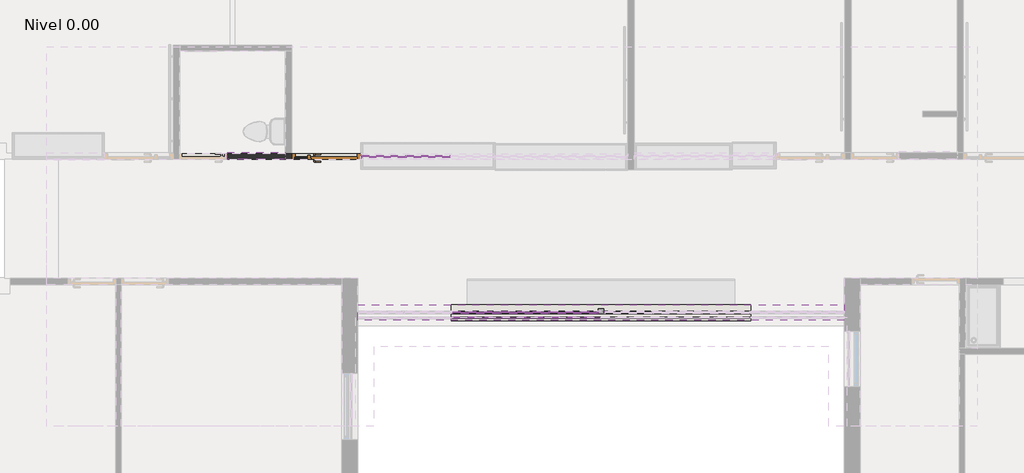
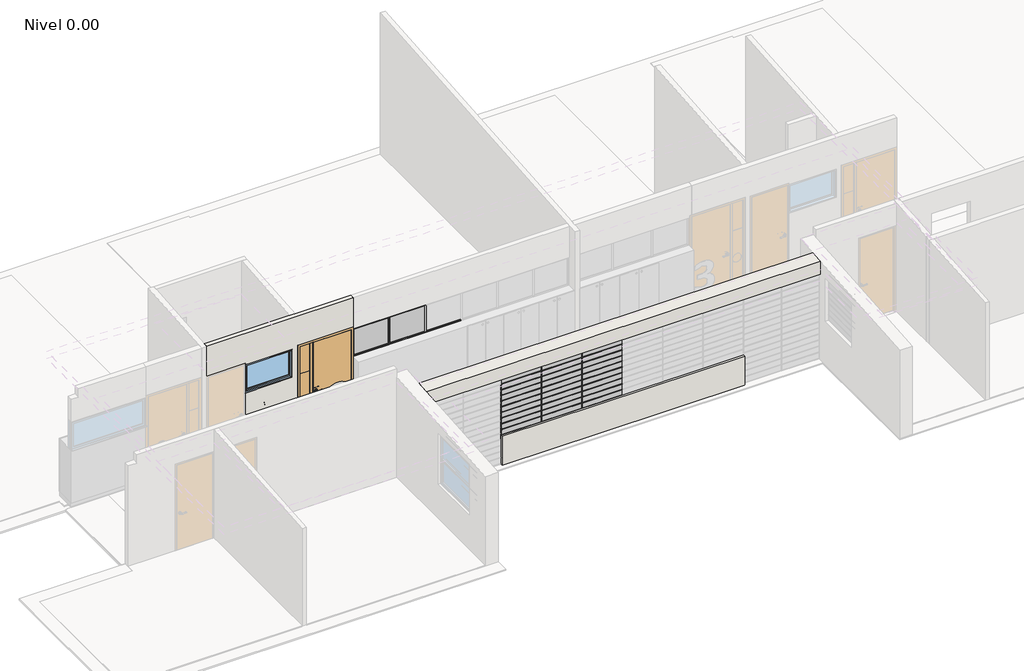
# One storey, part 5 of 27: 86 members, 38 plates, 3 walls, 1 door, 1 window.
"""IFC4 building model written with IfcOpenShell, lengths in millimetres."""

from ifc_helpers import new_model, si_unit, frame, origin, place, context, project, spatial, polyline, outline, extrude, faceted_brep, transform, mapped, element, save
from components import puerta_c_03_c03_1300x2100mm_d02b1a3e, circular_mullion_14d4c897, l_corner_mullion_2c31851b, rectangular_mullion_a87e72df, rectangular_mullion_5c6d569c, rectangular_mullion_86ff511a, rectangular_mullion_f9655b3d, rectangular_mullion_a4ea75e5, rectangular_mullion_127908d6, rectangular_mullion_5442057b, rectangular_mullion_bccfeea3, system_panel_948e591e, system_panel_a232d2f8, system_panel_glazed_b10717da, system_panel_glazed_bfee9a3a, ventana_fija_1100x700mm_4104369d

model = new_model("IFC4")

# Units and contexts
model_context = context("Model", 3, world=origin())
ifc_project = project(units=[si_unit("LENGTHUNIT", "METRE", prefix="MILLI")], contexts=[model_context])

# Site, building, storey
site = spatial("IfcSite", under=ifc_project)
building = spatial("IfcBuilding", under=site)
storey = spatial("IfcBuildingStorey", under=building, Name="Nivel 0.00", Elevation=0.0)

# Door
placement = place(None, origin())
puerta_c_03_c03_1300x2100mm_shape = puerta_c_03_c03_1300x2100mm_d02b1a3e(model_context)
element("IfcDoor", 1, ObjectType="PUERTA_C-03 : C03_1300X2100mm", at=placement, inside=storey, context=model_context, shape_type="MappedRepresentation", body=[
    mapped(puerta_c_03_c03_1300x2100mm_shape, transform((-6565.5701536, -784.2578399, 0.0), x_axis=(-1.0, 0.0, 0.0), y_axis=(0.0, -1.0, 0.0), z_axis=(0.0, 0.0, 1.0))),
])

# Members
circular_mullion_shape = circular_mullion_14d4c897(model_context)
element("IfcMember", 2, ObjectType="Circular Mullion : ARQ_HERR_16mm", at=placement, inside=storey, context=model_context, shape_type="MappedRepresentation", body=[
    mapped(circular_mullion_shape, transform((-3257.8699542, -3840.5609004, 840.0), x_axis=(0.0, 0.0, 1.0), y_axis=(0.0, -1.0, 0.0), z_axis=(1.0, 0.0, 0.0))),
])
element("IfcMember", 3, ObjectType="Circular Mullion : ARQ_HERR_16mm", at=placement, inside=storey, context=model_context, shape_type="MappedRepresentation", body=[
    mapped(circular_mullion_shape, transform((-2315.6841381, -3840.5609004, 840.0), x_axis=(0.0, 0.0, 1.0), y_axis=(0.0, -1.0, 0.0), z_axis=(1.0, 0.0, 0.0))),
])
element("IfcMember", 4, ObjectType="Circular Mullion : ARQ_HERR_16mm", at=placement, inside=storey, context=model_context, shape_type="MappedRepresentation", body=[
    mapped(circular_mullion_shape, transform((-1373.4983221, -3840.5609004, 840.0), x_axis=(0.0, 0.0, 1.0), y_axis=(0.0, -1.0, 0.0), z_axis=(1.0, 0.0, 0.0))),
])
element("IfcMember", 5, ObjectType="Circular Mullion : ARQ_HERR_16mm", at=placement, inside=storey, context=model_context, shape_type="MappedRepresentation", body=[
    mapped(circular_mullion_shape, transform((-3257.8699542, -3840.5609004, 980.0), x_axis=(0.0, 0.0, 1.0), y_axis=(0.0, -1.0, 0.0), z_axis=(1.0, 0.0, 0.0))),
])
element("IfcMember", 6, ObjectType="Circular Mullion : ARQ_HERR_16mm", at=placement, inside=storey, context=model_context, shape_type="MappedRepresentation", body=[
    mapped(circular_mullion_shape, transform((-2315.6841381, -3840.5609004, 980.0), x_axis=(0.0, 0.0, 1.0), y_axis=(0.0, -1.0, 0.0), z_axis=(1.0, 0.0, 0.0))),
])
element("IfcMember", 7, ObjectType="Circular Mullion : ARQ_HERR_16mm", at=placement, inside=storey, context=model_context, shape_type="MappedRepresentation", body=[
    mapped(circular_mullion_shape, transform((-1373.4983221, -3840.5609004, 980.0), x_axis=(0.0, 0.0, 1.0), y_axis=(0.0, -1.0, 0.0), z_axis=(1.0, 0.0, 0.0))),
])
element("IfcMember", 8, ObjectType="Circular Mullion : ARQ_HERR_16mm", at=placement, inside=storey, context=model_context, shape_type="MappedRepresentation", body=[
    mapped(circular_mullion_shape, transform((-3257.8699542, -3840.5609004, 1120.0), x_axis=(0.0, 0.0, 1.0), y_axis=(0.0, -1.0, 0.0), z_axis=(1.0, 0.0, 0.0))),
])
element("IfcMember", 9, ObjectType="Circular Mullion : ARQ_HERR_16mm", at=placement, inside=storey, context=model_context, shape_type="MappedRepresentation", body=[
    mapped(circular_mullion_shape, transform((-2315.6841381, -3840.5609004, 1120.0), x_axis=(0.0, 0.0, 1.0), y_axis=(0.0, -1.0, 0.0), z_axis=(1.0, 0.0, 0.0))),
])
element("IfcMember", 10, ObjectType="Circular Mullion : ARQ_HERR_16mm", at=placement, inside=storey, context=model_context, shape_type="MappedRepresentation", body=[
    mapped(circular_mullion_shape, transform((-1373.4983221, -3840.5609004, 1120.0), x_axis=(0.0, 0.0, 1.0), y_axis=(0.0, -1.0, 0.0), z_axis=(1.0, 0.0, 0.0))),
])
element("IfcMember", 11, ObjectType="Circular Mullion : ARQ_HERR_16mm", at=placement, inside=storey, context=model_context, shape_type="MappedRepresentation", body=[
    mapped(circular_mullion_shape, transform((-3257.8699542, -3840.5609004, 1260.0), x_axis=(0.0, 0.0, 1.0), y_axis=(0.0, -1.0, 0.0), z_axis=(1.0, 0.0, 0.0))),
])
element("IfcMember", 12, ObjectType="Circular Mullion : ARQ_HERR_16mm", at=placement, inside=storey, context=model_context, shape_type="MappedRepresentation", body=[
    mapped(circular_mullion_shape, transform((-2315.6841381, -3840.5609004, 1260.0), x_axis=(0.0, 0.0, 1.0), y_axis=(0.0, -1.0, 0.0), z_axis=(1.0, 0.0, 0.0))),
])
element("IfcMember", 13, ObjectType="Circular Mullion : ARQ_HERR_16mm", at=placement, inside=storey, context=model_context, shape_type="MappedRepresentation", body=[
    mapped(circular_mullion_shape, transform((-1373.4983221, -3840.5609004, 1260.0), x_axis=(0.0, 0.0, 1.0), y_axis=(0.0, -1.0, 0.0), z_axis=(1.0, 0.0, 0.0))),
])
element("IfcMember", 14, ObjectType="Circular Mullion : ARQ_HERR_16mm", at=placement, inside=storey, context=model_context, shape_type="MappedRepresentation", body=[
    mapped(circular_mullion_shape, transform((-3257.8699542, -3840.5609004, 1400.0), x_axis=(0.0, 0.0, 1.0), y_axis=(0.0, -1.0, 0.0), z_axis=(1.0, 0.0, 0.0))),
])
element("IfcMember", 15, ObjectType="Circular Mullion : ARQ_HERR_16mm", at=placement, inside=storey, context=model_context, shape_type="MappedRepresentation", body=[
    mapped(circular_mullion_shape, transform((-2315.6841381, -3840.5609004, 1400.0), x_axis=(0.0, 0.0, 1.0), y_axis=(0.0, -1.0, 0.0), z_axis=(1.0, 0.0, 0.0))),
])
element("IfcMember", 16, ObjectType="Circular Mullion : ARQ_HERR_16mm", at=placement, inside=storey, context=model_context, shape_type="MappedRepresentation", body=[
    mapped(circular_mullion_shape, transform((-1373.4983221, -3840.5609004, 1400.0), x_axis=(0.0, 0.0, 1.0), y_axis=(0.0, -1.0, 0.0), z_axis=(1.0, 0.0, 0.0))),
])
element("IfcMember", 17, ObjectType="Circular Mullion : ARQ_HERR_16mm", at=placement, inside=storey, context=model_context, shape_type="MappedRepresentation", body=[
    mapped(circular_mullion_shape, transform((-3257.8699542, -3840.5609004, 1540.0), x_axis=(0.0, 0.0, 1.0), y_axis=(0.0, -1.0, 0.0), z_axis=(1.0, 0.0, 0.0))),
])
element("IfcMember", 18, ObjectType="Circular Mullion : ARQ_HERR_16mm", at=placement, inside=storey, context=model_context, shape_type="MappedRepresentation", body=[
    mapped(circular_mullion_shape, transform((-2315.6841381, -3840.5609004, 1540.0), x_axis=(0.0, 0.0, 1.0), y_axis=(0.0, -1.0, 0.0), z_axis=(1.0, 0.0, 0.0))),
])
element("IfcMember", 19, ObjectType="Circular Mullion : ARQ_HERR_16mm", at=placement, inside=storey, context=model_context, shape_type="MappedRepresentation", body=[
    mapped(circular_mullion_shape, transform((-1373.4983221, -3840.5609004, 1540.0), x_axis=(0.0, 0.0, 1.0), y_axis=(0.0, -1.0, 0.0), z_axis=(1.0, 0.0, 0.0))),
])
element("IfcMember", 20, ObjectType="Circular Mullion : ARQ_HERR_16mm", at=placement, inside=storey, context=model_context, shape_type="MappedRepresentation", body=[
    mapped(circular_mullion_shape, transform((-3257.8699542, -3840.5609004, 1680.0), x_axis=(0.0, 0.0, 1.0), y_axis=(0.0, -1.0, 0.0), z_axis=(1.0, 0.0, 0.0))),
])
element("IfcMember", 21, ObjectType="Circular Mullion : ARQ_HERR_16mm", at=placement, inside=storey, context=model_context, shape_type="MappedRepresentation", body=[
    mapped(circular_mullion_shape, transform((-2315.6841381, -3840.5609004, 1680.0), x_axis=(0.0, 0.0, 1.0), y_axis=(0.0, -1.0, 0.0), z_axis=(1.0, 0.0, 0.0))),
])
element("IfcMember", 22, ObjectType="Circular Mullion : ARQ_HERR_16mm", at=placement, inside=storey, context=model_context, shape_type="MappedRepresentation", body=[
    mapped(circular_mullion_shape, transform((-1373.4983221, -3840.5609004, 1680.0), x_axis=(0.0, 0.0, 1.0), y_axis=(0.0, -1.0, 0.0), z_axis=(1.0, 0.0, 0.0))),
])
element("IfcMember", 23, ObjectType="Circular Mullion : ARQ_HERR_16mm", at=placement, inside=storey, context=model_context, shape_type="MappedRepresentation", body=[
    mapped(circular_mullion_shape, transform((-3257.8699542, -3840.5609004, 1820.0), x_axis=(0.0, 0.0, 1.0), y_axis=(0.0, -1.0, 0.0), z_axis=(1.0, 0.0, 0.0))),
])
element("IfcMember", 24, ObjectType="Circular Mullion : ARQ_HERR_16mm", at=placement, inside=storey, context=model_context, shape_type="MappedRepresentation", body=[
    mapped(circular_mullion_shape, transform((-2315.6841381, -3840.5609004, 1820.0), x_axis=(0.0, 0.0, 1.0), y_axis=(0.0, -1.0, 0.0), z_axis=(1.0, 0.0, 0.0))),
])
element("IfcMember", 25, ObjectType="Circular Mullion : ARQ_HERR_16mm", at=placement, inside=storey, context=model_context, shape_type="MappedRepresentation", body=[
    mapped(circular_mullion_shape, transform((-1373.4983221, -3840.5609004, 1820.0), x_axis=(0.0, 0.0, 1.0), y_axis=(0.0, -1.0, 0.0), z_axis=(1.0, 0.0, 0.0))),
])
element("IfcMember", 26, ObjectType="Circular Mullion : ARQ_HERR_16mm", at=placement, inside=storey, context=model_context, shape_type="MappedRepresentation", body=[
    mapped(circular_mullion_shape, transform((-3257.8699542, -3840.5609004, 1960.0), x_axis=(0.0, 0.0, 1.0), y_axis=(0.0, -1.0, 0.0), z_axis=(1.0, 0.0, 0.0))),
])
element("IfcMember", 27, ObjectType="Circular Mullion : ARQ_HERR_16mm", at=placement, inside=storey, context=model_context, shape_type="MappedRepresentation", body=[
    mapped(circular_mullion_shape, transform((-2315.6841381, -3840.5609004, 1960.0), x_axis=(0.0, 0.0, 1.0), y_axis=(0.0, -1.0, 0.0), z_axis=(1.0, 0.0, 0.0))),
])
element("IfcMember", 28, ObjectType="Circular Mullion : ARQ_HERR_16mm", at=placement, inside=storey, context=model_context, shape_type="MappedRepresentation", body=[
    mapped(circular_mullion_shape, transform((-1373.4983221, -3840.5609004, 1960.0), x_axis=(0.0, 0.0, 1.0), y_axis=(0.0, -1.0, 0.0), z_axis=(1.0, 0.0, 0.0))),
])
l_corner_mullion_shape = l_corner_mullion_2c31851b(model_context)
element("IfcMember", 29, ObjectType="L Corner Mullion : ARQ_HERR_15X6mm", at=placement, inside=storey, context=model_context, shape_type="MappedRepresentation", body=[
    mapped(l_corner_mullion_shape, transform((-3257.8699542, -3840.5609004, 2100.0), x_axis=(0.0, 0.0, 1.0), y_axis=(0.0, -1.0, 0.0), z_axis=(1.0, 0.0, 0.0))),
])
element("IfcMember", 30, ObjectType="L Corner Mullion : ARQ_HERR_15X6mm", at=placement, inside=storey, context=model_context, shape_type="MappedRepresentation", body=[
    mapped(l_corner_mullion_shape, transform((-2315.6841381, -3840.5609004, 2100.0), x_axis=(0.0, 0.0, 1.0), y_axis=(0.0, -1.0, 0.0), z_axis=(1.0, 0.0, 0.0))),
])
element("IfcMember", 31, ObjectType="L Corner Mullion : ARQ_HERR_15X6mm", at=placement, inside=storey, context=model_context, shape_type="MappedRepresentation", body=[
    mapped(l_corner_mullion_shape, transform((-1373.4983221, -3840.5609004, 2100.0), x_axis=(0.0, 0.0, 1.0), y_axis=(0.0, -1.0, 0.0), z_axis=(1.0, 0.0, 0.0))),
])
element("IfcMember", 32, ObjectType="L Corner Mullion : ARQ_HERR_15X6mm", at=placement, inside=storey, context=model_context, shape_type="MappedRepresentation", body=[
    mapped(l_corner_mullion_shape, transform((-3251.8699542, -3840.5609004, 700.0), x_axis=(0.0, 0.0, -1.0), y_axis=(0.0, -1.0, 0.0), z_axis=(-1.0, 0.0, 0.0))),
])
element("IfcMember", 33, ObjectType="L Corner Mullion : ARQ_HERR_15X6mm", at=placement, inside=storey, context=model_context, shape_type="MappedRepresentation", body=[
    mapped(l_corner_mullion_shape, transform((-2309.6841381, -3840.5609004, 700.0), x_axis=(0.0, 0.0, -1.0), y_axis=(0.0, -1.0, 0.0), z_axis=(-1.0, 0.0, 0.0))),
])
rectangular_mullion_shape = rectangular_mullion_a87e72df(model_context)
element("IfcMember", 34, ObjectType="Rectangular Mullion : ARQ_TV_MULL_50x30mm", at=placement, inside=storey, context=model_context, shape_type="MappedRepresentation", body=[
    mapped(rectangular_mullion_shape, transform((-3268.7445547, -3740.6047654, 700.0), x_axis=(1.0, 0.0, 0.0), y_axis=(0.0, -1.0, 0.0), z_axis=(0.0, 0.0, -1.0))),
])
element("IfcMember", 35, ObjectType="Rectangular Mullion : ARQ_TV_MULL_50x30mm", at=placement, inside=storey, context=model_context, shape_type="MappedRepresentation", body=[
    mapped(rectangular_mullion_shape, transform((-2352.4333391, -3740.6047654, 700.0), x_axis=(1.0, 0.0, 0.0), y_axis=(0.0, -1.0, 0.0), z_axis=(0.0, 0.0, -1.0))),
])
element("IfcMember", 36, ObjectType="Rectangular Mullion : ARQ_TV_MULL_50x30mm", at=placement, inside=storey, context=model_context, shape_type="MappedRepresentation", body=[
    mapped(rectangular_mullion_shape, transform((-3268.7445547, -3740.6047654, 1400.0), x_axis=(1.0, 0.0, 0.0), y_axis=(0.0, -1.0, 0.0), z_axis=(0.0, 0.0, -1.0))),
])
element("IfcMember", 37, ObjectType="Rectangular Mullion : ARQ_TV_MULL_50x30mm", at=placement, inside=storey, context=model_context, shape_type="MappedRepresentation", body=[
    mapped(rectangular_mullion_shape, transform((-2352.4333391, -3740.6047654, 1400.0), x_axis=(1.0, 0.0, 0.0), y_axis=(0.0, -1.0, 0.0), z_axis=(0.0, 0.0, -1.0))),
])
rectangular_mullion_2_shape = rectangular_mullion_5c6d569c(model_context)
element("IfcMember", 38, ObjectType="Rectangular Mullion : ARQ_TV_MULL_50x30mm", at=placement, inside=storey, context=model_context, shape_type="MappedRepresentation", body=[
    mapped(rectangular_mullion_2_shape, transform((-1421.1221232, -3740.6047654, 700.0), x_axis=(1.0, 0.0, 0.0), y_axis=(0.0, -1.0, 0.0), z_axis=(0.0, 0.0, -1.0))),
])
element("IfcMember", 39, ObjectType="Rectangular Mullion : ARQ_TV_MULL_50x30mm", at=placement, inside=storey, context=model_context, shape_type="MappedRepresentation", body=[
    mapped(rectangular_mullion_2_shape, transform((-1421.1221232, -3740.6047654, 1400.0), x_axis=(1.0, 0.0, 0.0), y_axis=(0.0, -1.0, 0.0), z_axis=(0.0, 0.0, -1.0))),
])
element("IfcMember", 40, ObjectType="Rectangular Mullion : ARQ_TV_MULL_50x30mm", at=placement, inside=storey, context=model_context, shape_type="MappedRepresentation", body=[
    mapped(rectangular_mullion_2_shape, transform((-1321.1221232, -3740.5609004, 2100.0), x_axis=(-1.0, 0.0, 0.0), y_axis=(0.0, -1.0, 0.0), z_axis=(0.0, 0.0, 1.0))),
])
element("IfcMember", 41, ObjectType="Rectangular Mullion : ARQ_TV_MULL_50x30mm", at=placement, inside=storey, context=model_context, shape_type="MappedRepresentation", body=[
    mapped(rectangular_mullion_2_shape, transform((-1321.1221232, -3740.5609004, 1400.0), x_axis=(-1.0, 0.0, 0.0), y_axis=(0.0, -1.0, 0.0), z_axis=(0.0, 0.0, 1.0))),
])
rectangular_mullion_3_shape = rectangular_mullion_86ff511a(model_context)
element("IfcMember", 42, ObjectType="Rectangular Mullion : ARQ_TV_MULL_50x30mm", at=placement, inside=storey, context=model_context, shape_type="MappedRepresentation", body=[
    mapped(rectangular_mullion_3_shape, transform((-1451.1221232, -3740.6047654, 2100.0), x_axis=(0.0, 0.0, 1.0), y_axis=(0.0, -1.0, 0.0), z_axis=(1.0, 0.0, 0.0))),
])
element("IfcMember", 43, ObjectType="Rectangular Mullion : ARQ_TV_MULL_50x30mm", at=placement, inside=storey, context=model_context, shape_type="MappedRepresentation", body=[
    mapped(rectangular_mullion_3_shape, transform((-3283.7445547, -3740.6047654, 2100.0), x_axis=(0.0, 0.0, 1.0), y_axis=(0.0, -1.0, 0.0), z_axis=(1.0, 0.0, 0.0))),
])
element("IfcMember", 44, ObjectType="Rectangular Mullion : ARQ_TV_MULL_50x30mm", at=placement, inside=storey, context=model_context, shape_type="MappedRepresentation", body=[
    mapped(rectangular_mullion_3_shape, transform((-2367.4333391, -3740.6047654, 2100.0), x_axis=(0.0, 0.0, 1.0), y_axis=(0.0, -1.0, 0.0), z_axis=(1.0, 0.0, 0.0))),
])
element("IfcMember", 45, ObjectType="Rectangular Mullion : ARQ_TV_MULL_50x30mm", at=placement, inside=storey, context=model_context, shape_type="MappedRepresentation", body=[
    mapped(rectangular_mullion_3_shape, transform((-3253.7445547, -3740.6047654, 700.0), x_axis=(0.0, 0.0, -1.0), y_axis=(0.0, -1.0, 0.0), z_axis=(-1.0, 0.0, 0.0))),
])
element("IfcMember", 46, ObjectType="Rectangular Mullion : ARQ_TV_MULL_50x30mm", at=placement, inside=storey, context=model_context, shape_type="MappedRepresentation", body=[
    mapped(rectangular_mullion_3_shape, transform((-2337.4333391, -3740.6047654, 700.0), x_axis=(0.0, 0.0, -1.0), y_axis=(0.0, -1.0, 0.0), z_axis=(-1.0, 0.0, 0.0))),
])
rectangular_mullion_4_shape = rectangular_mullion_f9655b3d(model_context)
element("IfcMember", 47, ObjectType="Rectangular Mullion : ARQ_TV_MULL_50x30mm", at=placement, inside=storey, context=model_context, shape_type="MappedRepresentation", body=[
    mapped(rectangular_mullion_4_shape, transform((-3283.7445547, -3740.6047654, 1400.0), x_axis=(0.0, 0.0, 1.0), y_axis=(0.0, -1.0, 0.0), z_axis=(1.0, 0.0, 0.0))),
])
element("IfcMember", 48, ObjectType="Rectangular Mullion : ARQ_TV_MULL_50x30mm", at=placement, inside=storey, context=model_context, shape_type="MappedRepresentation", body=[
    mapped(rectangular_mullion_4_shape, transform((-2367.4333391, -3740.6047654, 1400.0), x_axis=(0.0, 0.0, 1.0), y_axis=(0.0, -1.0, 0.0), z_axis=(1.0, 0.0, 0.0))),
])
element("IfcMember", 49, ObjectType="Rectangular Mullion : ARQ_TV_MULL_50x30mm", at=placement, inside=storey, context=model_context, shape_type="MappedRepresentation", body=[
    mapped(rectangular_mullion_4_shape, transform((-1451.1221232, -3740.6047654, 1400.0), x_axis=(0.0, 0.0, 1.0), y_axis=(0.0, -1.0, 0.0), z_axis=(1.0, 0.0, 0.0))),
])
rectangular_mullion_5_shape = rectangular_mullion_a4ea75e5(model_context)
element("IfcMember", 50, ObjectType="Rectangular Mullion : ARQ_TV_MULL_50x30mm", at=placement, inside=storey, context=model_context, shape_type="MappedRepresentation", body=[
    mapped(rectangular_mullion_5_shape, transform((-1291.1221232, -3740.5609004, 700.0), x_axis=(0.0, 0.0, -1.0), y_axis=(0.0, -1.0, 0.0), z_axis=(-1.0, 0.0, 0.0))),
])
element("IfcMember", 51, ObjectType="Rectangular Mullion : ARQ_TV_MULL_50x30mm", at=placement, inside=storey, context=model_context, shape_type="MappedRepresentation", body=[
    mapped(rectangular_mullion_shape, transform((-5058.9219375, -790.6078399, 1400.0), x_axis=(1.0, 0.0, 0.0), y_axis=(0.0, -1.0, 0.0), z_axis=(0.0, 0.0, -1.0))),
])
element("IfcMember", 52, ObjectType="Rectangular Mullion : ARQ_TV_MULL_50x30mm", at=placement, inside=storey, context=model_context, shape_type="MappedRepresentation", body=[
    mapped(rectangular_mullion_shape, transform((-4217.2514126, -790.6078399, 1400.0), x_axis=(1.0, 0.0, 0.0), y_axis=(0.0, -1.0, 0.0), z_axis=(0.0, 0.0, -1.0))),
])
element("IfcMember", 53, ObjectType="Rectangular Mullion : ARQ_TV_MULL_50x30mm", at=placement, inside=storey, context=model_context, shape_type="MappedRepresentation", body=[
    mapped(rectangular_mullion_2_shape, transform((-5915.5924627, -790.6078399, 2100.0), x_axis=(-1.0, 0.0, 0.0), y_axis=(0.0, -1.0, 0.0), z_axis=(0.0, 0.0, 1.0))),
])
rectangular_mullion_6_shape = rectangular_mullion_127908d6(model_context)
element("IfcMember", 54, ObjectType="Rectangular Mullion : ARQ_TV_MULL_50x30mm", at=placement, inside=storey, context=model_context, shape_type="MappedRepresentation", body=[
    mapped(rectangular_mullion_6_shape, transform((-5073.9219375, -790.6078399, 2100.0), x_axis=(0.0, 0.0, 1.0), y_axis=(0.0, -1.0, 0.0), z_axis=(1.0, 0.0, 0.0))),
])
element("IfcMember", 55, ObjectType="Rectangular Mullion : ARQ_TV_MULL_50x30mm", at=placement, inside=storey, context=model_context, shape_type="MappedRepresentation", body=[
    mapped(rectangular_mullion_6_shape, transform((-4232.2514126, -790.6078399, 2100.0), x_axis=(0.0, 0.0, 1.0), y_axis=(0.0, -1.0, 0.0), z_axis=(1.0, 0.0, 0.0))),
])
element("IfcMember", 56, ObjectType="Rectangular Mullion : ARQ_TV_MULL_50x30mm", at=placement, inside=storey, context=model_context, shape_type="MappedRepresentation", body=[
    mapped(rectangular_mullion_6_shape, transform((-5885.5924627, -790.6078399, 1400.0), x_axis=(0.0, 0.0, -1.0), y_axis=(0.0, -1.0, 0.0), z_axis=(-1.0, 0.0, 0.0))),
])
element("IfcMember", 57, ObjectType="Rectangular Mullion : ARQ_TV_MULL_50x30mm", at=placement, inside=storey, context=model_context, shape_type="MappedRepresentation", body=[
    mapped(rectangular_mullion_6_shape, transform((-5043.9219375, -790.6078399, 1400.0), x_axis=(0.0, 0.0, -1.0), y_axis=(0.0, -1.0, 0.0), z_axis=(-1.0, 0.0, 0.0))),
])
element("IfcMember", 58, ObjectType="Rectangular Mullion : ARQ_TV_MULL_50x30mm", at=placement, inside=storey, context=model_context, shape_type="MappedRepresentation", body=[
    mapped(rectangular_mullion_6_shape, transform((-4202.2514126, -790.6078399, 1400.0), x_axis=(0.0, 0.0, -1.0), y_axis=(0.0, -1.0, 0.0), z_axis=(-1.0, 0.0, 0.0))),
])
rectangular_mullion_7_shape = rectangular_mullion_5442057b(model_context)
element("IfcMember", 59, ObjectType="Rectangular Mullion : ARQ_HERR_15X6mm", at=placement, inside=storey, context=model_context, shape_type="MappedRepresentation", body=[
    mapped(rectangular_mullion_7_shape, transform((-3254.8699542, -3840.5609004, 700.0), x_axis=(1.0, 0.0, 0.0), y_axis=(0.0, -1.0, 0.0), z_axis=(0.0, 0.0, -1.0))),
])
element("IfcMember", 60, ObjectType="Rectangular Mullion : ARQ_HERR_15X6mm", at=placement, inside=storey, context=model_context, shape_type="MappedRepresentation", body=[
    mapped(rectangular_mullion_7_shape, transform((-2312.6841381, -3840.5609004, 700.0), x_axis=(1.0, 0.0, 0.0), y_axis=(0.0, -1.0, 0.0), z_axis=(0.0, 0.0, -1.0))),
])
element("IfcMember", 61, ObjectType="Rectangular Mullion : ARQ_HERR_15X6mm", at=placement, inside=storey, context=model_context, shape_type="MappedRepresentation", body=[
    mapped(rectangular_mullion_7_shape, transform((-3254.8699542, -3840.5609004, 840.0), x_axis=(1.0, 0.0, 0.0), y_axis=(0.0, -1.0, 0.0), z_axis=(0.0, 0.0, -1.0))),
])
element("IfcMember", 62, ObjectType="Rectangular Mullion : ARQ_HERR_15X6mm", at=placement, inside=storey, context=model_context, shape_type="MappedRepresentation", body=[
    mapped(rectangular_mullion_7_shape, transform((-2312.6841381, -3840.5609004, 840.0), x_axis=(1.0, 0.0, 0.0), y_axis=(0.0, -1.0, 0.0), z_axis=(0.0, 0.0, -1.0))),
])
element("IfcMember", 63, ObjectType="Rectangular Mullion : ARQ_HERR_15X6mm", at=placement, inside=storey, context=model_context, shape_type="MappedRepresentation", body=[
    mapped(rectangular_mullion_7_shape, transform((-3254.8699542, -3840.5609004, 980.0), x_axis=(1.0, 0.0, 0.0), y_axis=(0.0, -1.0, 0.0), z_axis=(0.0, 0.0, -1.0))),
])
element("IfcMember", 64, ObjectType="Rectangular Mullion : ARQ_HERR_15X6mm", at=placement, inside=storey, context=model_context, shape_type="MappedRepresentation", body=[
    mapped(rectangular_mullion_7_shape, transform((-3254.8699542, -3840.5609004, 1120.0), x_axis=(1.0, 0.0, 0.0), y_axis=(0.0, -1.0, 0.0), z_axis=(0.0, 0.0, -1.0))),
])
element("IfcMember", 65, ObjectType="Rectangular Mullion : ARQ_HERR_15X6mm", at=placement, inside=storey, context=model_context, shape_type="MappedRepresentation", body=[
    mapped(rectangular_mullion_7_shape, transform((-3254.8699542, -3840.5609004, 1260.0), x_axis=(1.0, 0.0, 0.0), y_axis=(0.0, -1.0, 0.0), z_axis=(0.0, 0.0, -1.0))),
])
element("IfcMember", 66, ObjectType="Rectangular Mullion : ARQ_HERR_15X6mm", at=placement, inside=storey, context=model_context, shape_type="MappedRepresentation", body=[
    mapped(rectangular_mullion_7_shape, transform((-3254.8699542, -3840.5609004, 1400.0), x_axis=(1.0, 0.0, 0.0), y_axis=(0.0, -1.0, 0.0), z_axis=(0.0, 0.0, -1.0))),
])
element("IfcMember", 67, ObjectType="Rectangular Mullion : ARQ_HERR_15X6mm", at=placement, inside=storey, context=model_context, shape_type="MappedRepresentation", body=[
    mapped(rectangular_mullion_7_shape, transform((-3254.8699542, -3840.5609004, 1540.0), x_axis=(1.0, 0.0, 0.0), y_axis=(0.0, -1.0, 0.0), z_axis=(0.0, 0.0, -1.0))),
])
element("IfcMember", 68, ObjectType="Rectangular Mullion : ARQ_HERR_15X6mm", at=placement, inside=storey, context=model_context, shape_type="MappedRepresentation", body=[
    mapped(rectangular_mullion_7_shape, transform((-3254.8699542, -3840.5609004, 1680.0), x_axis=(1.0, 0.0, 0.0), y_axis=(0.0, -1.0, 0.0), z_axis=(0.0, 0.0, -1.0))),
])
element("IfcMember", 69, ObjectType="Rectangular Mullion : ARQ_HERR_15X6mm", at=placement, inside=storey, context=model_context, shape_type="MappedRepresentation", body=[
    mapped(rectangular_mullion_7_shape, transform((-3254.8699542, -3840.5609004, 1820.0), x_axis=(1.0, 0.0, 0.0), y_axis=(0.0, -1.0, 0.0), z_axis=(0.0, 0.0, -1.0))),
])
element("IfcMember", 70, ObjectType="Rectangular Mullion : ARQ_HERR_15X6mm", at=placement, inside=storey, context=model_context, shape_type="MappedRepresentation", body=[
    mapped(rectangular_mullion_7_shape, transform((-2312.6841381, -3840.5609004, 980.0), x_axis=(1.0, 0.0, 0.0), y_axis=(0.0, -1.0, 0.0), z_axis=(0.0, 0.0, -1.0))),
])
element("IfcMember", 71, ObjectType="Rectangular Mullion : ARQ_HERR_15X6mm", at=placement, inside=storey, context=model_context, shape_type="MappedRepresentation", body=[
    mapped(rectangular_mullion_7_shape, transform((-2312.6841381, -3840.5609004, 1120.0), x_axis=(1.0, 0.0, 0.0), y_axis=(0.0, -1.0, 0.0), z_axis=(0.0, 0.0, -1.0))),
])
element("IfcMember", 72, ObjectType="Rectangular Mullion : ARQ_HERR_15X6mm", at=placement, inside=storey, context=model_context, shape_type="MappedRepresentation", body=[
    mapped(rectangular_mullion_7_shape, transform((-2312.6841381, -3840.5609004, 1260.0), x_axis=(1.0, 0.0, 0.0), y_axis=(0.0, -1.0, 0.0), z_axis=(0.0, 0.0, -1.0))),
])
element("IfcMember", 73, ObjectType="Rectangular Mullion : ARQ_HERR_15X6mm", at=placement, inside=storey, context=model_context, shape_type="MappedRepresentation", body=[
    mapped(rectangular_mullion_7_shape, transform((-2312.6841381, -3840.5609004, 1400.0), x_axis=(1.0, 0.0, 0.0), y_axis=(0.0, -1.0, 0.0), z_axis=(0.0, 0.0, -1.0))),
])
element("IfcMember", 74, ObjectType="Rectangular Mullion : ARQ_HERR_15X6mm", at=placement, inside=storey, context=model_context, shape_type="MappedRepresentation", body=[
    mapped(rectangular_mullion_7_shape, transform((-2312.6841381, -3840.5609004, 1540.0), x_axis=(1.0, 0.0, 0.0), y_axis=(0.0, -1.0, 0.0), z_axis=(0.0, 0.0, -1.0))),
])
element("IfcMember", 75, ObjectType="Rectangular Mullion : ARQ_HERR_15X6mm", at=placement, inside=storey, context=model_context, shape_type="MappedRepresentation", body=[
    mapped(rectangular_mullion_7_shape, transform((-2312.6841381, -3840.5609004, 1680.0), x_axis=(1.0, 0.0, 0.0), y_axis=(0.0, -1.0, 0.0), z_axis=(0.0, 0.0, -1.0))),
])
element("IfcMember", 76, ObjectType="Rectangular Mullion : ARQ_HERR_15X6mm", at=placement, inside=storey, context=model_context, shape_type="MappedRepresentation", body=[
    mapped(rectangular_mullion_7_shape, transform((-2312.6841381, -3840.5609004, 1820.0), x_axis=(1.0, 0.0, 0.0), y_axis=(0.0, -1.0, 0.0), z_axis=(0.0, 0.0, -1.0))),
])
element("IfcMember", 77, ObjectType="Rectangular Mullion : ARQ_HERR_15X6mm", at=placement, inside=storey, context=model_context, shape_type="MappedRepresentation", body=[
    mapped(rectangular_mullion_7_shape, transform((-3254.8699542, -3840.5609004, 1960.0), x_axis=(1.0, 0.0, 0.0), y_axis=(0.0, -1.0, 0.0), z_axis=(0.0, 0.0, -1.0))),
])
element("IfcMember", 78, ObjectType="Rectangular Mullion : ARQ_HERR_15X6mm", at=placement, inside=storey, context=model_context, shape_type="MappedRepresentation", body=[
    mapped(rectangular_mullion_7_shape, transform((-2312.6841381, -3840.5609004, 1960.0), x_axis=(1.0, 0.0, 0.0), y_axis=(0.0, -1.0, 0.0), z_axis=(0.0, 0.0, -1.0))),
])
rectangular_mullion_8_shape = rectangular_mullion_bccfeea3(model_context)
element("IfcMember", 79, ObjectType="Rectangular Mullion : ARQ_HERR_15X6mm", at=placement, inside=storey, context=model_context, shape_type="MappedRepresentation", body=[
    mapped(rectangular_mullion_8_shape, transform((-4200.0557705, -3840.5609004, 750.0), x_axis=(1.0, 0.0, 0.0), y_axis=(0.0, 1.0, 0.0), z_axis=(0.0, 0.0, 1.0))),
])
element("IfcMember", 80, ObjectType="Rectangular Mullion : ARQ_HERR_15X6mm", at=placement, inside=storey, context=model_context, shape_type="MappedRepresentation", body=[
    mapped(rectangular_mullion_8_shape, transform((-4200.0557705, -3840.5609004, 900.0), x_axis=(1.0, 0.0, 0.0), y_axis=(0.0, 1.0, 0.0), z_axis=(0.0, 0.0, 1.0))),
])
element("IfcMember", 81, ObjectType="Rectangular Mullion : ARQ_HERR_15X6mm", at=placement, inside=storey, context=model_context, shape_type="MappedRepresentation", body=[
    mapped(rectangular_mullion_8_shape, transform((-4200.0557705, -3840.5609004, 1050.0), x_axis=(1.0, 0.0, 0.0), y_axis=(0.0, 1.0, 0.0), z_axis=(0.0, 0.0, 1.0))),
])
element("IfcMember", 82, ObjectType="Rectangular Mullion : ARQ_HERR_15X6mm", at=placement, inside=storey, context=model_context, shape_type="MappedRepresentation", body=[
    mapped(rectangular_mullion_8_shape, transform((-4200.0557705, -3840.5609004, 1200.0), x_axis=(1.0, 0.0, 0.0), y_axis=(0.0, 1.0, 0.0), z_axis=(0.0, 0.0, 1.0))),
])
element("IfcMember", 83, ObjectType="Rectangular Mullion : ARQ_HERR_15X6mm", at=placement, inside=storey, context=model_context, shape_type="MappedRepresentation", body=[
    mapped(rectangular_mullion_8_shape, transform((-4200.0557705, -3840.5609004, 1350.0), x_axis=(1.0, 0.0, 0.0), y_axis=(0.0, 1.0, 0.0), z_axis=(0.0, 0.0, 1.0))),
])
element("IfcMember", 84, ObjectType="Rectangular Mullion : ARQ_HERR_15X6mm", at=placement, inside=storey, context=model_context, shape_type="MappedRepresentation", body=[
    mapped(rectangular_mullion_8_shape, transform((-4200.0557705, -3840.5609004, 1500.0), x_axis=(1.0, 0.0, 0.0), y_axis=(0.0, 1.0, 0.0), z_axis=(0.0, 0.0, 1.0))),
])
element("IfcMember", 85, ObjectType="Rectangular Mullion : ARQ_HERR_15X6mm", at=placement, inside=storey, context=model_context, shape_type="MappedRepresentation", body=[
    mapped(rectangular_mullion_8_shape, transform((-4200.0557705, -3840.5609004, 1650.0), x_axis=(1.0, 0.0, 0.0), y_axis=(0.0, 1.0, 0.0), z_axis=(0.0, 0.0, 1.0))),
])
element("IfcMember", 86, ObjectType="Rectangular Mullion : ARQ_HERR_15X6mm", at=placement, inside=storey, context=model_context, shape_type="MappedRepresentation", body=[
    mapped(rectangular_mullion_8_shape, transform((-4200.0557705, -3840.5609004, 1800.0), x_axis=(1.0, 0.0, 0.0), y_axis=(0.0, 1.0, 0.0), z_axis=(0.0, 0.0, 1.0))),
])
element("IfcMember", 87, ObjectType="Rectangular Mullion : ARQ_HERR_15X6mm", at=placement, inside=storey, context=model_context, shape_type="MappedRepresentation", body=[
    mapped(rectangular_mullion_8_shape, transform((-4200.0557705, -3840.5609004, 1950.0), x_axis=(1.0, 0.0, 0.0), y_axis=(0.0, 1.0, 0.0), z_axis=(0.0, 0.0, 1.0))),
])

# Plates
system_panel_shape = system_panel_948e591e(model_context)
element("IfcPlate", 88, ObjectType="System Panel : VACÍO", at=placement, inside=storey, context=model_context, shape_type="MappedRepresentation", body=[
    mapped(system_panel_shape, transform((-3725.9628624, -3840.5609004, 706.0), x_axis=(1.0, 0.0, 0.0), y_axis=(0.0, 1.0, 0.0), z_axis=(0.0, 0.0, 1.0))),
])
element("IfcPlate", 89, ObjectType="System Panel : VACÍO", at=placement, inside=storey, context=model_context, shape_type="MappedRepresentation", body=[
    mapped(system_panel_shape, transform((-2783.7770462, -3840.5609004, 706.0), x_axis=(1.0, 0.0, 0.0), y_axis=(0.0, 1.0, 0.0), z_axis=(0.0, 0.0, 1.0))),
])
element("IfcPlate", 90, ObjectType="System Panel : VACÍO", at=placement, inside=storey, context=model_context, shape_type="MappedRepresentation", body=[
    mapped(system_panel_shape, transform((-1841.5912301, -3840.5609004, 706.0), x_axis=(1.0, 0.0, 0.0), y_axis=(0.0, 1.0, 0.0), z_axis=(0.0, 0.0, 1.0))),
])
element("IfcPlate", 91, ObjectType="System Panel : VACÍO", at=placement, inside=storey, context=model_context, shape_type="MappedRepresentation", body=[
    mapped(system_panel_shape, transform((-3725.9628624, -3840.5609004, 1968.0), x_axis=(1.0, 0.0, 0.0), y_axis=(0.0, 1.0, 0.0), z_axis=(0.0, 0.0, 1.0))),
])
element("IfcPlate", 92, ObjectType="System Panel : VACÍO", at=placement, inside=storey, context=model_context, shape_type="MappedRepresentation", body=[
    mapped(system_panel_shape, transform((-2783.7770462, -3840.5609004, 1968.0), x_axis=(1.0, 0.0, 0.0), y_axis=(0.0, 1.0, 0.0), z_axis=(0.0, 0.0, 1.0))),
])
element("IfcPlate", 93, ObjectType="System Panel : VACÍO", at=placement, inside=storey, context=model_context, shape_type="MappedRepresentation", body=[
    mapped(system_panel_shape, transform((-1841.5912301, -3840.5609004, 1968.0), x_axis=(1.0, 0.0, 0.0), y_axis=(0.0, 1.0, 0.0), z_axis=(0.0, 0.0, 1.0))),
])
system_panel_2_shape = system_panel_a232d2f8(model_context)
element("IfcPlate", 94, ObjectType="System Panel : VACÍO", at=placement, inside=storey, context=model_context, shape_type="MappedRepresentation", body=[
    mapped(system_panel_2_shape, transform((-3725.9628624, -3840.5609004, 848.0), x_axis=(1.0, 0.0, 0.0), y_axis=(0.0, 1.0, 0.0), z_axis=(0.0, 0.0, 1.0))),
])
element("IfcPlate", 95, ObjectType="System Panel : VACÍO", at=placement, inside=storey, context=model_context, shape_type="MappedRepresentation", body=[
    mapped(system_panel_2_shape, transform((-2783.7770462, -3840.5609004, 848.0), x_axis=(1.0, 0.0, 0.0), y_axis=(0.0, 1.0, 0.0), z_axis=(0.0, 0.0, 1.0))),
])
element("IfcPlate", 96, ObjectType="System Panel : VACÍO", at=placement, inside=storey, context=model_context, shape_type="MappedRepresentation", body=[
    mapped(system_panel_2_shape, transform((-1841.5912301, -3840.5609004, 848.0), x_axis=(1.0, 0.0, 0.0), y_axis=(0.0, 1.0, 0.0), z_axis=(0.0, 0.0, 1.0))),
])
element("IfcPlate", 97, ObjectType="System Panel : VACÍO", at=placement, inside=storey, context=model_context, shape_type="MappedRepresentation", body=[
    mapped(system_panel_2_shape, transform((-3725.9628624, -3840.5609004, 988.0), x_axis=(1.0, 0.0, 0.0), y_axis=(0.0, 1.0, 0.0), z_axis=(0.0, 0.0, 1.0))),
])
element("IfcPlate", 98, ObjectType="System Panel : VACÍO", at=placement, inside=storey, context=model_context, shape_type="MappedRepresentation", body=[
    mapped(system_panel_2_shape, transform((-2783.7770462, -3840.5609004, 988.0), x_axis=(1.0, 0.0, 0.0), y_axis=(0.0, 1.0, 0.0), z_axis=(0.0, 0.0, 1.0))),
])
element("IfcPlate", 99, ObjectType="System Panel : VACÍO", at=placement, inside=storey, context=model_context, shape_type="MappedRepresentation", body=[
    mapped(system_panel_2_shape, transform((-1841.5912301, -3840.5609004, 988.0), x_axis=(1.0, 0.0, 0.0), y_axis=(0.0, 1.0, 0.0), z_axis=(0.0, 0.0, 1.0))),
])
element("IfcPlate", 100, ObjectType="System Panel : VACÍO", at=placement, inside=storey, context=model_context, shape_type="MappedRepresentation", body=[
    mapped(system_panel_2_shape, transform((-3725.9628624, -3840.5609004, 1128.0), x_axis=(1.0, 0.0, 0.0), y_axis=(0.0, 1.0, 0.0), z_axis=(0.0, 0.0, 1.0))),
])
element("IfcPlate", 101, ObjectType="System Panel : VACÍO", at=placement, inside=storey, context=model_context, shape_type="MappedRepresentation", body=[
    mapped(system_panel_2_shape, transform((-2783.7770462, -3840.5609004, 1128.0), x_axis=(1.0, 0.0, 0.0), y_axis=(0.0, 1.0, 0.0), z_axis=(0.0, 0.0, 1.0))),
])
element("IfcPlate", 102, ObjectType="System Panel : VACÍO", at=placement, inside=storey, context=model_context, shape_type="MappedRepresentation", body=[
    mapped(system_panel_2_shape, transform((-1841.5912301, -3840.5609004, 1128.0), x_axis=(1.0, 0.0, 0.0), y_axis=(0.0, 1.0, 0.0), z_axis=(0.0, 0.0, 1.0))),
])
element("IfcPlate", 103, ObjectType="System Panel : VACÍO", at=placement, inside=storey, context=model_context, shape_type="MappedRepresentation", body=[
    mapped(system_panel_2_shape, transform((-3725.9628624, -3840.5609004, 1268.0), x_axis=(1.0, 0.0, 0.0), y_axis=(0.0, 1.0, 0.0), z_axis=(0.0, 0.0, 1.0))),
])
element("IfcPlate", 104, ObjectType="System Panel : VACÍO", at=placement, inside=storey, context=model_context, shape_type="MappedRepresentation", body=[
    mapped(system_panel_2_shape, transform((-2783.7770462, -3840.5609004, 1268.0), x_axis=(1.0, 0.0, 0.0), y_axis=(0.0, 1.0, 0.0), z_axis=(0.0, 0.0, 1.0))),
])
element("IfcPlate", 105, ObjectType="System Panel : VACÍO", at=placement, inside=storey, context=model_context, shape_type="MappedRepresentation", body=[
    mapped(system_panel_2_shape, transform((-1841.5912301, -3840.5609004, 1268.0), x_axis=(1.0, 0.0, 0.0), y_axis=(0.0, 1.0, 0.0), z_axis=(0.0, 0.0, 1.0))),
])
element("IfcPlate", 106, ObjectType="System Panel : VACÍO", at=placement, inside=storey, context=model_context, shape_type="MappedRepresentation", body=[
    mapped(system_panel_2_shape, transform((-3725.9628624, -3840.5609004, 1408.0), x_axis=(1.0, 0.0, 0.0), y_axis=(0.0, 1.0, 0.0), z_axis=(0.0, 0.0, 1.0))),
])
element("IfcPlate", 107, ObjectType="System Panel : VACÍO", at=placement, inside=storey, context=model_context, shape_type="MappedRepresentation", body=[
    mapped(system_panel_2_shape, transform((-2783.7770462, -3840.5609004, 1408.0), x_axis=(1.0, 0.0, 0.0), y_axis=(0.0, 1.0, 0.0), z_axis=(0.0, 0.0, 1.0))),
])
element("IfcPlate", 108, ObjectType="System Panel : VACÍO", at=placement, inside=storey, context=model_context, shape_type="MappedRepresentation", body=[
    mapped(system_panel_2_shape, transform((-1841.5912301, -3840.5609004, 1408.0), x_axis=(1.0, 0.0, 0.0), y_axis=(0.0, 1.0, 0.0), z_axis=(0.0, 0.0, 1.0))),
])
element("IfcPlate", 109, ObjectType="System Panel : VACÍO", at=placement, inside=storey, context=model_context, shape_type="MappedRepresentation", body=[
    mapped(system_panel_2_shape, transform((-3725.9628624, -3840.5609004, 1548.0), x_axis=(1.0, 0.0, 0.0), y_axis=(0.0, 1.0, 0.0), z_axis=(0.0, 0.0, 1.0))),
])
element("IfcPlate", 110, ObjectType="System Panel : VACÍO", at=placement, inside=storey, context=model_context, shape_type="MappedRepresentation", body=[
    mapped(system_panel_2_shape, transform((-2783.7770462, -3840.5609004, 1548.0), x_axis=(1.0, 0.0, 0.0), y_axis=(0.0, 1.0, 0.0), z_axis=(0.0, 0.0, 1.0))),
])
element("IfcPlate", 111, ObjectType="System Panel : VACÍO", at=placement, inside=storey, context=model_context, shape_type="MappedRepresentation", body=[
    mapped(system_panel_2_shape, transform((-1841.5912301, -3840.5609004, 1548.0), x_axis=(1.0, 0.0, 0.0), y_axis=(0.0, 1.0, 0.0), z_axis=(0.0, 0.0, 1.0))),
])
element("IfcPlate", 112, ObjectType="System Panel : VACÍO", at=placement, inside=storey, context=model_context, shape_type="MappedRepresentation", body=[
    mapped(system_panel_2_shape, transform((-3725.9628624, -3840.5609004, 1688.0), x_axis=(1.0, 0.0, 0.0), y_axis=(0.0, 1.0, 0.0), z_axis=(0.0, 0.0, 1.0))),
])
element("IfcPlate", 113, ObjectType="System Panel : VACÍO", at=placement, inside=storey, context=model_context, shape_type="MappedRepresentation", body=[
    mapped(system_panel_2_shape, transform((-2783.7770462, -3840.5609004, 1688.0), x_axis=(1.0, 0.0, 0.0), y_axis=(0.0, 1.0, 0.0), z_axis=(0.0, 0.0, 1.0))),
])
element("IfcPlate", 114, ObjectType="System Panel : VACÍO", at=placement, inside=storey, context=model_context, shape_type="MappedRepresentation", body=[
    mapped(system_panel_2_shape, transform((-1841.5912301, -3840.5609004, 1688.0), x_axis=(1.0, 0.0, 0.0), y_axis=(0.0, 1.0, 0.0), z_axis=(0.0, 0.0, 1.0))),
])
element("IfcPlate", 115, ObjectType="System Panel : VACÍO", at=placement, inside=storey, context=model_context, shape_type="MappedRepresentation", body=[
    mapped(system_panel_2_shape, transform((-3725.9628624, -3840.5609004, 1828.0), x_axis=(1.0, 0.0, 0.0), y_axis=(0.0, 1.0, 0.0), z_axis=(0.0, 0.0, 1.0))),
])
element("IfcPlate", 116, ObjectType="System Panel : VACÍO", at=placement, inside=storey, context=model_context, shape_type="MappedRepresentation", body=[
    mapped(system_panel_2_shape, transform((-2783.7770462, -3840.5609004, 1828.0), x_axis=(1.0, 0.0, 0.0), y_axis=(0.0, 1.0, 0.0), z_axis=(0.0, 0.0, 1.0))),
])
element("IfcPlate", 117, ObjectType="System Panel : VACÍO", at=placement, inside=storey, context=model_context, shape_type="MappedRepresentation", body=[
    mapped(system_panel_2_shape, transform((-1841.5912301, -3840.5609004, 1828.0), x_axis=(1.0, 0.0, 0.0), y_axis=(0.0, 1.0, 0.0), z_axis=(0.0, 0.0, 1.0))),
])
system_panel_glazed_shape = system_panel_glazed_b10717da(model_context)
element("IfcPlate", 118, ObjectType="System Panel : Glazed", at=placement, inside=storey, context=model_context, shape_type="MappedRepresentation", body=[
    mapped(system_panel_glazed_shape, transform((-3726.9001626, -3740.6047654, 730.0), x_axis=(1.0, 0.0, 0.0), y_axis=(0.0, 1.0, 0.0), z_axis=(0.0, 0.0, 1.0))),
])
element("IfcPlate", 119, ObjectType="System Panel : Glazed", at=placement, inside=storey, context=model_context, shape_type="MappedRepresentation", body=[
    mapped(system_panel_glazed_shape, transform((-2810.5889469, -3740.6047654, 730.0), x_axis=(1.0, 0.0, 0.0), y_axis=(0.0, 1.0, 0.0), z_axis=(0.0, 0.0, 1.0))),
])
element("IfcPlate", 120, ObjectType="System Panel : Glazed", at=placement, inside=storey, context=model_context, shape_type="MappedRepresentation", body=[
    mapped(system_panel_glazed_shape, transform((-1894.2777312, -3740.6047654, 730.0), x_axis=(1.0, 0.0, 0.0), y_axis=(0.0, 1.0, 0.0), z_axis=(0.0, 0.0, 1.0))),
])
element("IfcPlate", 121, ObjectType="System Panel : Glazed", at=placement, inside=storey, context=model_context, shape_type="MappedRepresentation", body=[
    mapped(system_panel_glazed_shape, transform((-3726.9001626, -3740.6047654, 1415.0), x_axis=(1.0, 0.0, 0.0), y_axis=(0.0, 1.0, 0.0), z_axis=(0.0, 0.0, 1.0))),
])
element("IfcPlate", 122, ObjectType="System Panel : Glazed", at=placement, inside=storey, context=model_context, shape_type="MappedRepresentation", body=[
    mapped(system_panel_glazed_shape, transform((-2810.5889469, -3740.6047654, 1415.0), x_axis=(1.0, 0.0, 0.0), y_axis=(0.0, 1.0, 0.0), z_axis=(0.0, 0.0, 1.0))),
])
element("IfcPlate", 123, ObjectType="System Panel : Glazed", at=placement, inside=storey, context=model_context, shape_type="MappedRepresentation", body=[
    mapped(system_panel_glazed_shape, transform((-1894.2777312, -3740.6047654, 1415.0), x_axis=(1.0, 0.0, 0.0), y_axis=(0.0, 1.0, 0.0), z_axis=(0.0, 0.0, 1.0))),
])
system_panel_glazed_2_shape = system_panel_glazed_bfee9a3a(model_context)
element("IfcPlate", 124, ObjectType="System Panel : Glazed", at=placement, inside=storey, context=model_context, shape_type="MappedRepresentation", body=[
    mapped(system_panel_glazed_2_shape, transform((-5479.7572001, -790.6078399, 1430.0), x_axis=(1.0, 0.0, 0.0), y_axis=(0.0, 1.0, 0.0), z_axis=(0.0, 0.0, 1.0))),
])
element("IfcPlate", 125, ObjectType="System Panel : Glazed", at=placement, inside=storey, context=model_context, shape_type="MappedRepresentation", body=[
    mapped(system_panel_glazed_2_shape, transform((-4638.086675, -790.6078399, 1430.0), x_axis=(1.0, 0.0, 0.0), y_axis=(0.0, 1.0, 0.0), z_axis=(0.0, 0.0, 1.0))),
])

# Walls
element("IfcWall", 126, ObjectType="ARQ_MUR_M02-G_300mm", at=placement, inside=storey, context=model_context, shape_type="SweptSolid", body=[
    extrude(outline(polyline([(1459.0591264, -3890.5609004), (-4200.0557705, -3890.5609004), (-4200.0557705, -3590.5609004), (1459.0591264, -3590.5609004), (1459.0591264, -3890.5609004)])), frame((0.0, 0.0, -20.0), z_axis=(0.0, 0.0, 1.0), x_axis=(1.0, 0.0, 0.0)), (0.0, 0.0, 1.0), 720.0),
])
element("IfcWall", 127, ObjectType="ARQ_MUR_M02-V_300mm", at=placement, inside=storey, context=model_context, shape_type="SweptSolid", body=[
    extrude(outline(polyline([(-3890.5609004, 2100.0), (-3890.5609004, 2421.1207069), (-3590.5609004, 2445.272456), (-3590.5609004, 2100.0), (-3890.5609004, 2100.0)])), frame((-5970.0557705, 0.0, 0.0), z_axis=(1.0, 0.0, 0.0), x_axis=(0.0, 1.0, 0.0)), (0.0, 0.0, 1.0), 9197.2022053),
])
element("IfcWall", 128, ObjectType="ARQ_TAB_T01_100mm", at=placement, inside=storey, context=model_context, shape_type="Brep", body=[
    faceted_brep([(-9335.5924627, -840.6078399, -20.0), (-5915.5924627, -840.6078399, -20.0), (-5915.5924627, -840.6078399, 0.0), (-7215.5701536, -840.6078399, 0.0), (-7215.5701536, -840.6078399, 2150.0), (-5915.5924627, -840.6078399, 2150.0), (-5915.5924627, -840.6078399, 2867.3067831), (-9335.5924627, -840.6078399, 2867.3067831), (-9335.5924627, -840.6078399, 2130.0), (-8435.5924627, -840.6078399, 2130.0), (-8435.5924627, -840.6078399, 2100.0), (-7335.5692854, -840.6078399, 2100.0), (-7335.5692854, -840.6078399, 1400.0), (-8435.5924627, -840.6078399, 1400.0), (-8435.5924627, -840.6078399, 0.0), (-9335.5924627, -840.6078399, 0.0), (-5915.5924627, -740.6078399, -20.0), (-7215.5692854, -740.6078399, -20.0), (-7335.5692854, -740.6078399, -20.0), (-9335.5924627, -740.6078399, -20.0), (-9335.5924627, -740.6078399, 0.0), (-8435.5924627, -740.6078399, 0.0), (-8435.5924627, -740.6078399, 1400.0), (-7335.5692854, -740.6078399, 1400.0), (-7335.5692854, -740.6078399, 2100.0), (-8435.5924627, -740.6078399, 2100.0), (-8435.5924627, -740.6078399, 2130.0), (-9335.5924627, -740.6078399, 2130.0), (-9335.5924627, -740.6078399, 2875.3573662), (-7335.5692854, -740.6078399, 2875.3573662), (-7215.5692854, -740.6078399, 2875.3573662), (-5915.5924627, -740.6078399, 2875.3573662), (-5915.5924627, -740.6078399, 2150.0), (-7215.5701536, -740.6078399, 2150.0), (-7215.5701536, -740.6078399, 0.0), (-5915.5924627, -740.6078399, 0.0)], [[[0, 1, 2, 3, 4, 5, 6, 7, 8, 9, 10, 11, 12, 13, 14, 15]], [[16, 17, 18, 19, 20, 21, 22, 23, 24, 25, 26, 27, 28, 29, 30, 31, 32, 33, 34, 35]], [[1, 0, 19, 18, 17, 16]], [[1, 16, 35, 2]], [[31, 6, 5, 32]], [[19, 0, 15, 20]], [[8, 7, 28, 27]], [[26, 9, 8, 27]], [[21, 14, 13, 22]], [[9, 26, 25, 10]], [[14, 21, 20, 15]], [[3, 34, 33, 4]], [[4, 33, 32, 5]], [[34, 3, 2, 35]], [[7, 6, 31, 30, 29, 28]], [[12, 11, 24, 23]], [[13, 12, 23, 22]], [[11, 10, 25, 24]]]),
])

# Window
ventana_fija_1100x700mm_shape = ventana_fija_1100x700mm_4104369d(model_context)
element("IfcWindow", 129, ObjectType="VENTANA_FIJA : 1100X700mm", at=placement, inside=storey, context=model_context, shape_type="MappedRepresentation", body=[
    mapped(ventana_fija_1100x700mm_shape, transform((-7847.480874, -790.6078399, 0.0), x_axis=(1.0, 0.0, 0.0), y_axis=(0.0, 1.0, 0.0), z_axis=(0.0, 0.0, 1.0))),
])

save(model, "model.ifc")
